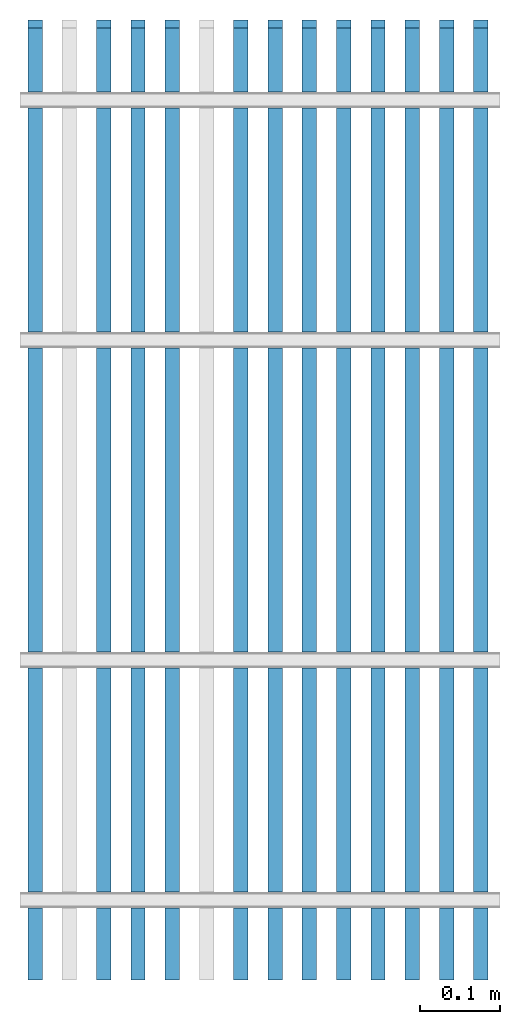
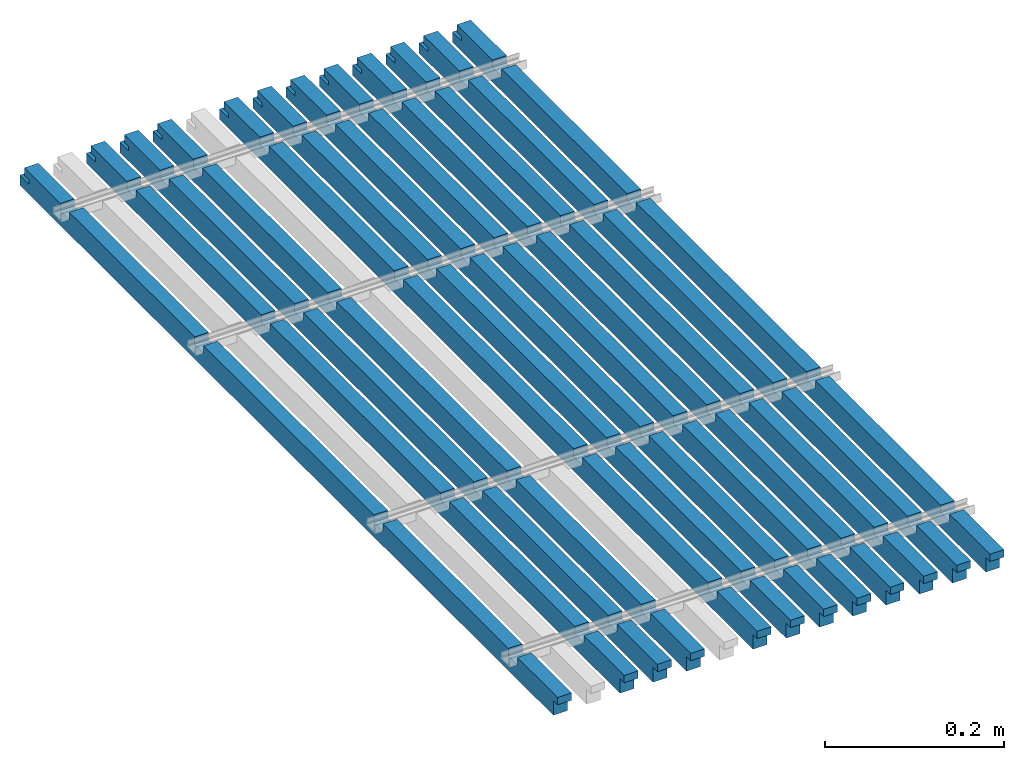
# One storey, part 2 of 3: 12 walls.
"""IFC2X3 building model written with IfcOpenShell, lengths in millimetres."""

from ifc_helpers import new_model, entity, si_unit, converted_unit, money_unit, direction, frame, origin_with_axes, place, context, subcontext, project, spatial, polyline, outline, extrude, boolean, faceted_brep, material, layer, layer_set, layer_usage, type_object, element, save


model = new_model("IFC2X3")

# Units and contexts
model_context = context("Model", 3, precision=1e-05, world=origin_with_axes(), true_north=direction((0.0, 1.0)))
body_context = subcontext(model_context, "Body", "Model", "MODEL_VIEW")
ifc_project = project(units=[si_unit("LENGTHUNIT", "METRE", prefix="MILLI"), si_unit("AREAUNIT", "SQUARE_METRE"), si_unit("VOLUMEUNIT", "CUBIC_METRE"), converted_unit("PLANEANGLEUNIT", "DEGREE", entity("IfcPlaneAngleMeasure", 0.0174532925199), si_unit("PLANEANGLEUNIT", "RADIAN"), dimensions=[0, 0, 0, 0, 0, 0, 0]), si_unit("SOLIDANGLEUNIT", "STERADIAN"), money_unit("AUD"), si_unit("TIMEUNIT", "SECOND"), si_unit("MASSUNIT", "GRAM"), si_unit("THERMODYNAMICTEMPERATUREUNIT", "DEGREE_CELSIUS"), si_unit("LUMINOUSINTENSITYUNIT", "LUMEN")], contexts=[model_context])

# Site, building, storey
site_placement = place(None, origin_with_axes())
site = spatial("IfcSite", under=ifc_project, at=site_placement, Name="Site", CompositionType="ELEMENT")
building_placement = place(site_placement, origin_with_axes())
building = spatial("IfcBuilding", under=site, at=building_placement, Name="Building", CompositionType="ELEMENT")
storey_placement = place(building_placement, origin_with_axes())
storey = spatial("IfcBuildingStorey", under=building, at=storey_placement, Name="GROUND", CompositionType="ELEMENT", Elevation=0.0)

# Walls
ifc_material = material(Name="Timber")
ifc_layer = layer(ifc_material, 18.0, ventilated="UNKNOWN")
ifc_layer_set = layer_set([ifc_layer], Name="Timber 18")
ifc_layer_usage_1 = layer_usage(ifc_layer_set, "AXIS2", "POSITIVE", 0.0)
wall_type = type_object("IfcWallType", Name="Timber 18", PredefinedType="NOTDEFINED")
wall_1_placement = place(storey_placement, frame((287.57, 0.0, 0.0), z_axis=(0.0, 0.0, 1.0), x_axis=(0.0, 1.0, 0.0)))
element("IfcWallStandardCase", 1, at=wall_1_placement, inside=storey, type_object=wall_type, material=ifc_layer_usage_1, Name="WALL-01", context=body_context, shape_type="CSG", body=[
    boolean("DIFFERENCE", boolean("DIFFERENCE", boolean("DIFFERENCE", boolean("DIFFERENCE", boolean("DIFFERENCE", boolean("DIFFERENCE", extrude(outline(polyline([(0.0, 0.0), (1200.0, 0.0), (1200.0, 18.0), (0.0, 18.0), (0.0, 0.0)])), origin_with_axes(), (0.0, 0.0, 1.0), 30.0), faceted_brep([(9.5, 0.0, 20.0), (0.0, 0.0, 20.0), (0.0, 0.0, 0.0), (9.5, 0.0, 0.0), (9.5, 18.0, 20.0), (0.0, 18.0, 20.0), (0.0, 18.0, 0.0), (9.5, 18.0, 0.0)], [[[0, 1, 2, 3]], [[1, 0, 4, 5]], [[1, 5, 6, 2]], [[7, 3, 2, 6]], [[0, 3, 7, 4]], [[4, 7, 6, 5]]])), faceted_brep([(90.0, 0.0, 20.0), (110.0, 0.0, 20.0), (110.0, 0.0, 30.0), (90.0, 0.0, 30.0), (90.0, 18.0, 20.0), (110.0, 18.0, 20.0), (110.0, 18.0, 30.0), (90.0, 18.0, 30.0)], [[[0, 1, 2, 3]], [[1, 0, 4, 5]], [[6, 2, 1, 5]], [[7, 3, 2, 6]], [[0, 3, 7, 4]], [[4, 7, 6, 5]]])), faceted_brep([(390.0, 0.0, 20.0), (410.0, 0.0, 20.0), (410.0, 0.0, 30.0), (390.0, 0.0, 30.0), (390.0, 18.0, 20.0), (410.0, 18.0, 20.0), (410.0, 18.0, 30.0), (390.0, 18.0, 30.0)], [[[0, 1, 2, 3]], [[1, 0, 4, 5]], [[6, 2, 1, 5]], [[7, 3, 2, 6]], [[0, 3, 7, 4]], [[4, 7, 6, 5]]])), faceted_brep([(790.0, 0.0, 20.0), (810.0, 0.0, 20.0), (810.0, 0.0, 30.0), (790.0, 0.0, 30.0), (790.0, 18.0, 20.0), (810.0, 18.0, 20.0), (810.0, 18.0, 30.0), (790.0, 18.0, 30.0)], [[[0, 1, 2, 3]], [[1, 0, 4, 5]], [[6, 2, 1, 5]], [[7, 3, 2, 6]], [[0, 3, 7, 4]], [[4, 7, 6, 5]]])), faceted_brep([(1090.0, 0.0, 20.0), (1110.0, 0.0, 20.0), (1110.0, 0.0, 30.0), (1090.0, 0.0, 30.0), (1090.0, 18.0, 20.0), (1110.0, 18.0, 20.0), (1110.0, 18.0, 30.0), (1090.0, 18.0, 30.0)], [[[0, 1, 2, 3]], [[1, 0, 4, 5]], [[6, 2, 1, 5]], [[7, 3, 2, 6]], [[0, 3, 7, 4]], [[4, 7, 6, 5]]])), faceted_brep([(1180.0, 0.0, 19.5), (1180.0, 0.0, 14.0), (1200.0, 0.0, 14.0), (1200.0, 0.0, 30.0), (1190.0, 0.0, 30.0), (1190.0, 0.0, 19.5), (1180.0, 18.0, 19.5), (1180.0, 18.0, 14.0), (1200.0, 18.0, 14.0), (1200.0, 18.0, 30.0), (1190.0, 18.0, 30.0), (1190.0, 18.0, 19.5)], [[[0, 1, 2, 3, 4, 5]], [[1, 0, 6, 7]], [[8, 2, 1, 7]], [[2, 8, 9, 3]], [[10, 4, 3, 9]], [[5, 4, 10, 11]], [[0, 5, 11, 6]], [[11, 10, 9, 8, 7, 6]]])),
])
ifc_layer_usage_2 = layer_usage(ifc_layer_set, "AXIS2", "POSITIVE", 0.0)
wall_2_placement = place(storey_placement, frame((330.43, 0.0, 0.0), z_axis=(0.0, 0.0, 1.0), x_axis=(0.0, 1.0, 0.0)))
element("IfcWallStandardCase", 2, at=wall_2_placement, inside=storey, type_object=wall_type, material=ifc_layer_usage_2, Name="WALL-01", context=body_context, shape_type="CSG", body=[
    boolean("DIFFERENCE", boolean("DIFFERENCE", boolean("DIFFERENCE", boolean("DIFFERENCE", boolean("DIFFERENCE", boolean("DIFFERENCE", extrude(outline(polyline([(0.0, 0.0), (1200.0, 0.0), (1200.0, 18.0), (0.0, 18.0), (0.0, 0.0)])), origin_with_axes(), (0.0, 0.0, 1.0), 30.0), faceted_brep([(9.5, 0.0, 20.0), (0.0, 0.0, 20.0), (0.0, 0.0, 0.0), (9.5, 0.0, 0.0), (9.5, 18.0, 20.0), (0.0, 18.0, 20.0), (0.0, 18.0, 0.0), (9.5, 18.0, 0.0)], [[[0, 1, 2, 3]], [[1, 0, 4, 5]], [[1, 5, 6, 2]], [[7, 3, 2, 6]], [[0, 3, 7, 4]], [[4, 7, 6, 5]]])), faceted_brep([(90.0, 0.0, 20.0), (110.0, 0.0, 20.0), (110.0, 0.0, 30.0), (90.0, 0.0, 30.0), (90.0, 18.0, 20.0), (110.0, 18.0, 20.0), (110.0, 18.0, 30.0), (90.0, 18.0, 30.0)], [[[0, 1, 2, 3]], [[1, 0, 4, 5]], [[6, 2, 1, 5]], [[7, 3, 2, 6]], [[0, 3, 7, 4]], [[4, 7, 6, 5]]])), faceted_brep([(390.0, 0.0, 20.0), (410.0, 0.0, 20.0), (410.0, 0.0, 30.0), (390.0, 0.0, 30.0), (390.0, 18.0, 20.0), (410.0, 18.0, 20.0), (410.0, 18.0, 30.0), (390.0, 18.0, 30.0)], [[[0, 1, 2, 3]], [[1, 0, 4, 5]], [[6, 2, 1, 5]], [[7, 3, 2, 6]], [[0, 3, 7, 4]], [[4, 7, 6, 5]]])), faceted_brep([(790.0, 0.0, 20.0), (810.0, 0.0, 20.0), (810.0, 0.0, 30.0), (790.0, 0.0, 30.0), (790.0, 18.0, 20.0), (810.0, 18.0, 20.0), (810.0, 18.0, 30.0), (790.0, 18.0, 30.0)], [[[0, 1, 2, 3]], [[1, 0, 4, 5]], [[6, 2, 1, 5]], [[7, 3, 2, 6]], [[0, 3, 7, 4]], [[4, 7, 6, 5]]])), faceted_brep([(1090.0, 0.0, 20.0), (1110.0, 0.0, 20.0), (1110.0, 0.0, 30.0), (1090.0, 0.0, 30.0), (1090.0, 18.0, 20.0), (1110.0, 18.0, 20.0), (1110.0, 18.0, 30.0), (1090.0, 18.0, 30.0)], [[[0, 1, 2, 3]], [[1, 0, 4, 5]], [[6, 2, 1, 5]], [[7, 3, 2, 6]], [[0, 3, 7, 4]], [[4, 7, 6, 5]]])), faceted_brep([(1180.0, 0.0, 19.5), (1180.0, 0.0, 14.0), (1200.0, 0.0, 14.0), (1200.0, 0.0, 30.0), (1190.0, 0.0, 30.0), (1190.0, 0.0, 19.5), (1180.0, 18.0, 19.5), (1180.0, 18.0, 14.0), (1200.0, 18.0, 14.0), (1200.0, 18.0, 30.0), (1190.0, 18.0, 30.0), (1190.0, 18.0, 19.5)], [[[0, 1, 2, 3, 4, 5]], [[1, 0, 6, 7]], [[8, 2, 1, 7]], [[2, 8, 9, 3]], [[10, 4, 3, 9]], [[5, 4, 10, 11]], [[0, 5, 11, 6]], [[11, 10, 9, 8, 7, 6]]])),
])
ifc_layer_usage_3 = layer_usage(ifc_layer_set, "AXIS2", "POSITIVE", 0.0)
wall_3_placement = place(storey_placement, frame((416.15, 0.0, 0.0), z_axis=(0.0, 0.0, 1.0), x_axis=(0.0, 1.0, 0.0)))
element("IfcWallStandardCase", 3, at=wall_3_placement, inside=storey, type_object=wall_type, material=ifc_layer_usage_3, Name="WALL-01", context=body_context, shape_type="CSG", body=[
    boolean("DIFFERENCE", boolean("DIFFERENCE", boolean("DIFFERENCE", boolean("DIFFERENCE", boolean("DIFFERENCE", boolean("DIFFERENCE", extrude(outline(polyline([(0.0, 0.0), (1200.0, 0.0), (1200.0, 18.0), (0.0, 18.0), (0.0, 0.0)])), origin_with_axes(), (0.0, 0.0, 1.0), 30.0), faceted_brep([(9.5, 0.0, 20.0), (0.0, 0.0, 20.0), (0.0, 0.0, 0.0), (9.5, 0.0, 0.0), (9.5, 18.0, 20.0), (0.0, 18.0, 20.0), (0.0, 18.0, 0.0), (9.5, 18.0, 0.0)], [[[0, 1, 2, 3]], [[1, 0, 4, 5]], [[1, 5, 6, 2]], [[7, 3, 2, 6]], [[0, 3, 7, 4]], [[4, 7, 6, 5]]])), faceted_brep([(90.0, 0.0, 20.0), (110.0, 0.0, 20.0), (110.0, 0.0, 30.0), (90.0, 0.0, 30.0), (90.0, 18.0, 20.0), (110.0, 18.0, 20.0), (110.0, 18.0, 30.0), (90.0, 18.0, 30.0)], [[[0, 1, 2, 3]], [[1, 0, 4, 5]], [[6, 2, 1, 5]], [[7, 3, 2, 6]], [[0, 3, 7, 4]], [[4, 7, 6, 5]]])), faceted_brep([(390.0, 0.0, 20.0), (410.0, 0.0, 20.0), (410.0, 0.0, 30.0), (390.0, 0.0, 30.0), (390.0, 18.0, 20.0), (410.0, 18.0, 20.0), (410.0, 18.0, 30.0), (390.0, 18.0, 30.0)], [[[0, 1, 2, 3]], [[1, 0, 4, 5]], [[6, 2, 1, 5]], [[7, 3, 2, 6]], [[0, 3, 7, 4]], [[4, 7, 6, 5]]])), faceted_brep([(790.0, 0.0, 20.0), (810.0, 0.0, 20.0), (810.0, 0.0, 30.0), (790.0, 0.0, 30.0), (790.0, 18.0, 20.0), (810.0, 18.0, 20.0), (810.0, 18.0, 30.0), (790.0, 18.0, 30.0)], [[[0, 1, 2, 3]], [[1, 0, 4, 5]], [[6, 2, 1, 5]], [[7, 3, 2, 6]], [[0, 3, 7, 4]], [[4, 7, 6, 5]]])), faceted_brep([(1090.0, 0.0, 20.0), (1110.0, 0.0, 20.0), (1110.0, 0.0, 30.0), (1090.0, 0.0, 30.0), (1090.0, 18.0, 20.0), (1110.0, 18.0, 20.0), (1110.0, 18.0, 30.0), (1090.0, 18.0, 30.0)], [[[0, 1, 2, 3]], [[1, 0, 4, 5]], [[6, 2, 1, 5]], [[7, 3, 2, 6]], [[0, 3, 7, 4]], [[4, 7, 6, 5]]])), faceted_brep([(1180.0, 0.0, 19.5), (1180.0, 0.0, 14.0), (1200.0, 0.0, 14.0), (1200.0, 0.0, 30.0), (1190.0, 0.0, 30.0), (1190.0, 0.0, 19.5), (1180.0, 18.0, 19.5), (1180.0, 18.0, 14.0), (1200.0, 18.0, 14.0), (1200.0, 18.0, 30.0), (1190.0, 18.0, 30.0), (1190.0, 18.0, 19.5)], [[[0, 1, 2, 3, 4, 5]], [[1, 0, 6, 7]], [[8, 2, 1, 7]], [[2, 8, 9, 3]], [[10, 4, 3, 9]], [[5, 4, 10, 11]], [[0, 5, 11, 6]], [[11, 10, 9, 8, 7, 6]]])),
])
ifc_layer_usage_4 = layer_usage(ifc_layer_set, "AXIS2", "POSITIVE", 0.0)
wall_4_placement = place(storey_placement, frame((158.99, 0.0, 0.0), z_axis=(0.0, 0.0, 1.0), x_axis=(0.0, 1.0, 0.0)))
element("IfcWallStandardCase", 4, at=wall_4_placement, inside=storey, type_object=wall_type, material=ifc_layer_usage_4, Name="WALL-01", context=body_context, shape_type="CSG", body=[
    boolean("DIFFERENCE", boolean("DIFFERENCE", boolean("DIFFERENCE", boolean("DIFFERENCE", boolean("DIFFERENCE", boolean("DIFFERENCE", extrude(outline(polyline([(0.0, 0.0), (1200.0, 0.0), (1200.0, 18.0), (0.0, 18.0), (0.0, 0.0)])), origin_with_axes(), (0.0, 0.0, 1.0), 30.0), faceted_brep([(9.5, 0.0, 20.0), (0.0, 0.0, 20.0), (0.0, 0.0, 0.0), (9.5, 0.0, 0.0), (9.5, 18.0, 20.0), (0.0, 18.0, 20.0), (0.0, 18.0, 0.0), (9.5, 18.0, 0.0)], [[[0, 1, 2, 3]], [[1, 0, 4, 5]], [[1, 5, 6, 2]], [[7, 3, 2, 6]], [[0, 3, 7, 4]], [[4, 7, 6, 5]]])), faceted_brep([(90.0, 0.0, 20.0), (110.0, 0.0, 20.0), (110.0, 0.0, 30.0), (90.0, 0.0, 30.0), (90.0, 18.0, 20.0), (110.0, 18.0, 20.0), (110.0, 18.0, 30.0), (90.0, 18.0, 30.0)], [[[0, 1, 2, 3]], [[1, 0, 4, 5]], [[6, 2, 1, 5]], [[7, 3, 2, 6]], [[0, 3, 7, 4]], [[4, 7, 6, 5]]])), faceted_brep([(390.0, 0.0, 20.0), (410.0, 0.0, 20.0), (410.0, 0.0, 30.0), (390.0, 0.0, 30.0), (390.0, 18.0, 20.0), (410.0, 18.0, 20.0), (410.0, 18.0, 30.0), (390.0, 18.0, 30.0)], [[[0, 1, 2, 3]], [[1, 0, 4, 5]], [[6, 2, 1, 5]], [[7, 3, 2, 6]], [[0, 3, 7, 4]], [[4, 7, 6, 5]]])), faceted_brep([(790.0, 0.0, 20.0), (810.0, 0.0, 20.0), (810.0, 0.0, 30.0), (790.0, 0.0, 30.0), (790.0, 18.0, 20.0), (810.0, 18.0, 20.0), (810.0, 18.0, 30.0), (790.0, 18.0, 30.0)], [[[0, 1, 2, 3]], [[1, 0, 4, 5]], [[6, 2, 1, 5]], [[7, 3, 2, 6]], [[0, 3, 7, 4]], [[4, 7, 6, 5]]])), faceted_brep([(1090.0, 0.0, 20.0), (1110.0, 0.0, 20.0), (1110.0, 0.0, 30.0), (1090.0, 0.0, 30.0), (1090.0, 18.0, 20.0), (1110.0, 18.0, 20.0), (1110.0, 18.0, 30.0), (1090.0, 18.0, 30.0)], [[[0, 1, 2, 3]], [[1, 0, 4, 5]], [[6, 2, 1, 5]], [[7, 3, 2, 6]], [[0, 3, 7, 4]], [[4, 7, 6, 5]]])), faceted_brep([(1180.0, 0.0, 19.5), (1180.0, 0.0, 14.0), (1200.0, 0.0, 14.0), (1200.0, 0.0, 30.0), (1190.0, 0.0, 30.0), (1190.0, 0.0, 19.5), (1180.0, 18.0, 19.5), (1180.0, 18.0, 14.0), (1200.0, 18.0, 14.0), (1200.0, 18.0, 30.0), (1190.0, 18.0, 30.0), (1190.0, 18.0, 19.5)], [[[0, 1, 2, 3, 4, 5]], [[1, 0, 6, 7]], [[8, 2, 1, 7]], [[2, 8, 9, 3]], [[10, 4, 3, 9]], [[5, 4, 10, 11]], [[0, 5, 11, 6]], [[11, 10, 9, 8, 7, 6]]])),
])
ifc_layer_usage_5 = layer_usage(ifc_layer_set, "AXIS2", "POSITIVE", 0.0)
wall_5_placement = place(storey_placement, frame((373.29, 0.0, 0.0), z_axis=(0.0, 0.0, 1.0), x_axis=(0.0, 1.0, 0.0)))
element("IfcWallStandardCase", 5, at=wall_5_placement, inside=storey, type_object=wall_type, material=ifc_layer_usage_5, Name="WALL-01", context=body_context, shape_type="CSG", body=[
    boolean("DIFFERENCE", boolean("DIFFERENCE", boolean("DIFFERENCE", boolean("DIFFERENCE", boolean("DIFFERENCE", boolean("DIFFERENCE", extrude(outline(polyline([(0.0, 0.0), (1200.0, 0.0), (1200.0, 18.0), (0.0, 18.0), (0.0, 0.0)])), origin_with_axes(), (0.0, 0.0, 1.0), 30.0), faceted_brep([(9.5, 0.0, 20.0), (0.0, 0.0, 20.0), (0.0, 0.0, 0.0), (9.5, 0.0, 0.0), (9.5, 18.0, 20.0), (0.0, 18.0, 20.0), (0.0, 18.0, 0.0), (9.5, 18.0, 0.0)], [[[0, 1, 2, 3]], [[1, 0, 4, 5]], [[1, 5, 6, 2]], [[7, 3, 2, 6]], [[0, 3, 7, 4]], [[4, 7, 6, 5]]])), faceted_brep([(90.0, 0.0, 20.0), (110.0, 0.0, 20.0), (110.0, 0.0, 30.0), (90.0, 0.0, 30.0), (90.0, 18.0, 20.0), (110.0, 18.0, 20.0), (110.0, 18.0, 30.0), (90.0, 18.0, 30.0)], [[[0, 1, 2, 3]], [[1, 0, 4, 5]], [[6, 2, 1, 5]], [[7, 3, 2, 6]], [[0, 3, 7, 4]], [[4, 7, 6, 5]]])), faceted_brep([(390.0, 0.0, 20.0), (410.0, 0.0, 20.0), (410.0, 0.0, 30.0), (390.0, 0.0, 30.0), (390.0, 18.0, 20.0), (410.0, 18.0, 20.0), (410.0, 18.0, 30.0), (390.0, 18.0, 30.0)], [[[0, 1, 2, 3]], [[1, 0, 4, 5]], [[6, 2, 1, 5]], [[7, 3, 2, 6]], [[0, 3, 7, 4]], [[4, 7, 6, 5]]])), faceted_brep([(790.0, 0.0, 20.0), (810.0, 0.0, 20.0), (810.0, 0.0, 30.0), (790.0, 0.0, 30.0), (790.0, 18.0, 20.0), (810.0, 18.0, 20.0), (810.0, 18.0, 30.0), (790.0, 18.0, 30.0)], [[[0, 1, 2, 3]], [[1, 0, 4, 5]], [[6, 2, 1, 5]], [[7, 3, 2, 6]], [[0, 3, 7, 4]], [[4, 7, 6, 5]]])), faceted_brep([(1090.0, 0.0, 20.0), (1110.0, 0.0, 20.0), (1110.0, 0.0, 30.0), (1090.0, 0.0, 30.0), (1090.0, 18.0, 20.0), (1110.0, 18.0, 20.0), (1110.0, 18.0, 30.0), (1090.0, 18.0, 30.0)], [[[0, 1, 2, 3]], [[1, 0, 4, 5]], [[6, 2, 1, 5]], [[7, 3, 2, 6]], [[0, 3, 7, 4]], [[4, 7, 6, 5]]])), faceted_brep([(1180.0, 0.0, 19.5), (1180.0, 0.0, 14.0), (1200.0, 0.0, 14.0), (1200.0, 0.0, 30.0), (1190.0, 0.0, 30.0), (1190.0, 0.0, 19.5), (1180.0, 18.0, 19.5), (1180.0, 18.0, 14.0), (1200.0, 18.0, 14.0), (1200.0, 18.0, 30.0), (1190.0, 18.0, 30.0), (1190.0, 18.0, 19.5)], [[[0, 1, 2, 3, 4, 5]], [[1, 0, 6, 7]], [[8, 2, 1, 7]], [[2, 8, 9, 3]], [[10, 4, 3, 9]], [[5, 4, 10, 11]], [[0, 5, 11, 6]], [[11, 10, 9, 8, 7, 6]]])),
])
ifc_layer_usage_6 = layer_usage(ifc_layer_set, "AXIS2", "POSITIVE", 0.0)
wall_6_placement = place(storey_placement, frame((587.59, 0.0, 0.0), z_axis=(0.0, 0.0, 1.0), x_axis=(0.0, 1.0, 0.0)))
element("IfcWallStandardCase", 6, at=wall_6_placement, inside=storey, type_object=wall_type, material=ifc_layer_usage_6, Name="WALL-01", context=body_context, shape_type="CSG", body=[
    boolean("DIFFERENCE", boolean("DIFFERENCE", boolean("DIFFERENCE", boolean("DIFFERENCE", boolean("DIFFERENCE", boolean("DIFFERENCE", extrude(outline(polyline([(0.0, 0.0), (1200.0, 0.0), (1200.0, 18.0), (0.0, 18.0), (0.0, 0.0)])), origin_with_axes(), (0.0, 0.0, 1.0), 30.0), faceted_brep([(9.5, 0.0, 20.0), (0.0, 0.0, 20.0), (0.0, 0.0, 0.0), (9.5, 0.0, 0.0), (9.5, 18.0, 20.0), (0.0, 18.0, 20.0), (0.0, 18.0, 0.0), (9.5, 18.0, 0.0)], [[[0, 1, 2, 3]], [[1, 0, 4, 5]], [[1, 5, 6, 2]], [[7, 3, 2, 6]], [[0, 3, 7, 4]], [[4, 7, 6, 5]]])), faceted_brep([(90.0, 0.0, 20.0), (110.0, 0.0, 20.0), (110.0, 0.0, 30.0), (90.0, 0.0, 30.0), (90.0, 18.0, 20.0), (110.0, 18.0, 20.0), (110.0, 18.0, 30.0), (90.0, 18.0, 30.0)], [[[0, 1, 2, 3]], [[1, 0, 4, 5]], [[6, 2, 1, 5]], [[7, 3, 2, 6]], [[0, 3, 7, 4]], [[4, 7, 6, 5]]])), faceted_brep([(390.0, 0.0, 20.0), (410.0, 0.0, 20.0), (410.0, 0.0, 30.0), (390.0, 0.0, 30.0), (390.0, 18.0, 20.0), (410.0, 18.0, 20.0), (410.0, 18.0, 30.0), (390.0, 18.0, 30.0)], [[[0, 1, 2, 3]], [[1, 0, 4, 5]], [[6, 2, 1, 5]], [[7, 3, 2, 6]], [[0, 3, 7, 4]], [[4, 7, 6, 5]]])), faceted_brep([(790.0, 0.0, 20.0), (810.0, 0.0, 20.0), (810.0, 0.0, 30.0), (790.0, 0.0, 30.0), (790.0, 18.0, 20.0), (810.0, 18.0, 20.0), (810.0, 18.0, 30.0), (790.0, 18.0, 30.0)], [[[0, 1, 2, 3]], [[1, 0, 4, 5]], [[6, 2, 1, 5]], [[7, 3, 2, 6]], [[0, 3, 7, 4]], [[4, 7, 6, 5]]])), faceted_brep([(1090.0, 0.0, 20.0), (1110.0, 0.0, 20.0), (1110.0, 0.0, 30.0), (1090.0, 0.0, 30.0), (1090.0, 18.0, 20.0), (1110.0, 18.0, 20.0), (1110.0, 18.0, 30.0), (1090.0, 18.0, 30.0)], [[[0, 1, 2, 3]], [[1, 0, 4, 5]], [[6, 2, 1, 5]], [[7, 3, 2, 6]], [[0, 3, 7, 4]], [[4, 7, 6, 5]]])), faceted_brep([(1180.0, 0.0, 19.5), (1180.0, 0.0, 14.0), (1200.0, 0.0, 14.0), (1200.0, 0.0, 30.0), (1190.0, 0.0, 30.0), (1190.0, 0.0, 19.5), (1180.0, 18.0, 19.5), (1180.0, 18.0, 14.0), (1200.0, 18.0, 14.0), (1200.0, 18.0, 30.0), (1190.0, 18.0, 30.0), (1190.0, 18.0, 19.5)], [[[0, 1, 2, 3, 4, 5]], [[1, 0, 6, 7]], [[8, 2, 1, 7]], [[2, 8, 9, 3]], [[10, 4, 3, 9]], [[5, 4, 10, 11]], [[0, 5, 11, 6]], [[11, 10, 9, 8, 7, 6]]])),
])
ifc_layer_usage_7 = layer_usage(ifc_layer_set, "AXIS2", "POSITIVE", 0.0)
wall_7_placement = place(storey_placement, frame((544.73, 0.0, 0.0), z_axis=(0.0, 0.0, 1.0), x_axis=(0.0, 1.0, 0.0)))
element("IfcWallStandardCase", 7, at=wall_7_placement, inside=storey, type_object=wall_type, material=ifc_layer_usage_7, Name="WALL-01", context=body_context, shape_type="CSG", body=[
    boolean("DIFFERENCE", boolean("DIFFERENCE", boolean("DIFFERENCE", boolean("DIFFERENCE", boolean("DIFFERENCE", boolean("DIFFERENCE", extrude(outline(polyline([(0.0, 0.0), (1200.0, 0.0), (1200.0, 18.0), (0.0, 18.0), (0.0, 0.0)])), origin_with_axes(), (0.0, 0.0, 1.0), 30.0), faceted_brep([(9.5, 0.0, 20.0), (0.0, 0.0, 20.0), (0.0, 0.0, 0.0), (9.5, 0.0, 0.0), (9.5, 18.0, 20.0), (0.0, 18.0, 20.0), (0.0, 18.0, 0.0), (9.5, 18.0, 0.0)], [[[0, 1, 2, 3]], [[1, 0, 4, 5]], [[1, 5, 6, 2]], [[7, 3, 2, 6]], [[0, 3, 7, 4]], [[4, 7, 6, 5]]])), faceted_brep([(90.0, 0.0, 20.0), (110.0, 0.0, 20.0), (110.0, 0.0, 30.0), (90.0, 0.0, 30.0), (90.0, 18.0, 20.0), (110.0, 18.0, 20.0), (110.0, 18.0, 30.0), (90.0, 18.0, 30.0)], [[[0, 1, 2, 3]], [[1, 0, 4, 5]], [[6, 2, 1, 5]], [[7, 3, 2, 6]], [[0, 3, 7, 4]], [[4, 7, 6, 5]]])), faceted_brep([(390.0, 0.0, 20.0), (410.0, 0.0, 20.0), (410.0, 0.0, 30.0), (390.0, 0.0, 30.0), (390.0, 18.0, 20.0), (410.0, 18.0, 20.0), (410.0, 18.0, 30.0), (390.0, 18.0, 30.0)], [[[0, 1, 2, 3]], [[1, 0, 4, 5]], [[6, 2, 1, 5]], [[7, 3, 2, 6]], [[0, 3, 7, 4]], [[4, 7, 6, 5]]])), faceted_brep([(790.0, 0.0, 20.0), (810.0, 0.0, 20.0), (810.0, 0.0, 30.0), (790.0, 0.0, 30.0), (790.0, 18.0, 20.0), (810.0, 18.0, 20.0), (810.0, 18.0, 30.0), (790.0, 18.0, 30.0)], [[[0, 1, 2, 3]], [[1, 0, 4, 5]], [[6, 2, 1, 5]], [[7, 3, 2, 6]], [[0, 3, 7, 4]], [[4, 7, 6, 5]]])), faceted_brep([(1090.0, 0.0, 20.0), (1110.0, 0.0, 20.0), (1110.0, 0.0, 30.0), (1090.0, 0.0, 30.0), (1090.0, 18.0, 20.0), (1110.0, 18.0, 20.0), (1110.0, 18.0, 30.0), (1090.0, 18.0, 30.0)], [[[0, 1, 2, 3]], [[1, 0, 4, 5]], [[6, 2, 1, 5]], [[7, 3, 2, 6]], [[0, 3, 7, 4]], [[4, 7, 6, 5]]])), faceted_brep([(1180.0, 0.0, 19.5), (1180.0, 0.0, 14.0), (1200.0, 0.0, 14.0), (1200.0, 0.0, 30.0), (1190.0, 0.0, 30.0), (1190.0, 0.0, 19.5), (1180.0, 18.0, 19.5), (1180.0, 18.0, 14.0), (1200.0, 18.0, 14.0), (1200.0, 18.0, 30.0), (1190.0, 18.0, 30.0), (1190.0, 18.0, 19.5)], [[[0, 1, 2, 3, 4, 5]], [[1, 0, 6, 7]], [[8, 2, 1, 7]], [[2, 8, 9, 3]], [[10, 4, 3, 9]], [[5, 4, 10, 11]], [[0, 5, 11, 6]], [[11, 10, 9, 8, 7, 6]]])),
])
ifc_layer_usage_8 = layer_usage(ifc_layer_set, "AXIS2", "POSITIVE", 0.0)
wall_8_placement = place(storey_placement, frame((501.87, 0.0, 0.0), z_axis=(0.0, 0.0, 1.0), x_axis=(0.0, 1.0, 0.0)))
element("IfcWallStandardCase", 8, at=wall_8_placement, inside=storey, type_object=wall_type, material=ifc_layer_usage_8, Name="WALL-01", context=body_context, shape_type="CSG", body=[
    boolean("DIFFERENCE", boolean("DIFFERENCE", boolean("DIFFERENCE", boolean("DIFFERENCE", boolean("DIFFERENCE", boolean("DIFFERENCE", extrude(outline(polyline([(0.0, 0.0), (1200.0, 0.0), (1200.0, 18.0), (0.0, 18.0), (0.0, 0.0)])), origin_with_axes(), (0.0, 0.0, 1.0), 30.0), faceted_brep([(9.5, 0.0, 20.0), (0.0, 0.0, 20.0), (0.0, 0.0, 0.0), (9.5, 0.0, 0.0), (9.5, 18.0, 20.0), (0.0, 18.0, 20.0), (0.0, 18.0, 0.0), (9.5, 18.0, 0.0)], [[[0, 1, 2, 3]], [[1, 0, 4, 5]], [[1, 5, 6, 2]], [[7, 3, 2, 6]], [[0, 3, 7, 4]], [[4, 7, 6, 5]]])), faceted_brep([(90.0, 0.0, 20.0), (110.0, 0.0, 20.0), (110.0, 0.0, 30.0), (90.0, 0.0, 30.0), (90.0, 18.0, 20.0), (110.0, 18.0, 20.0), (110.0, 18.0, 30.0), (90.0, 18.0, 30.0)], [[[0, 1, 2, 3]], [[1, 0, 4, 5]], [[6, 2, 1, 5]], [[7, 3, 2, 6]], [[0, 3, 7, 4]], [[4, 7, 6, 5]]])), faceted_brep([(390.0, 0.0, 20.0), (410.0, 0.0, 20.0), (410.0, 0.0, 30.0), (390.0, 0.0, 30.0), (390.0, 18.0, 20.0), (410.0, 18.0, 20.0), (410.0, 18.0, 30.0), (390.0, 18.0, 30.0)], [[[0, 1, 2, 3]], [[1, 0, 4, 5]], [[6, 2, 1, 5]], [[7, 3, 2, 6]], [[0, 3, 7, 4]], [[4, 7, 6, 5]]])), faceted_brep([(790.0, 0.0, 20.0), (810.0, 0.0, 20.0), (810.0, 0.0, 30.0), (790.0, 0.0, 30.0), (790.0, 18.0, 20.0), (810.0, 18.0, 20.0), (810.0, 18.0, 30.0), (790.0, 18.0, 30.0)], [[[0, 1, 2, 3]], [[1, 0, 4, 5]], [[6, 2, 1, 5]], [[7, 3, 2, 6]], [[0, 3, 7, 4]], [[4, 7, 6, 5]]])), faceted_brep([(1090.0, 0.0, 20.0), (1110.0, 0.0, 20.0), (1110.0, 0.0, 30.0), (1090.0, 0.0, 30.0), (1090.0, 18.0, 20.0), (1110.0, 18.0, 20.0), (1110.0, 18.0, 30.0), (1090.0, 18.0, 30.0)], [[[0, 1, 2, 3]], [[1, 0, 4, 5]], [[6, 2, 1, 5]], [[7, 3, 2, 6]], [[0, 3, 7, 4]], [[4, 7, 6, 5]]])), faceted_brep([(1180.0, 0.0, 19.5), (1180.0, 0.0, 14.0), (1200.0, 0.0, 14.0), (1200.0, 0.0, 30.0), (1190.0, 0.0, 30.0), (1190.0, 0.0, 19.5), (1180.0, 18.0, 19.5), (1180.0, 18.0, 14.0), (1200.0, 18.0, 14.0), (1200.0, 18.0, 30.0), (1190.0, 18.0, 30.0), (1190.0, 18.0, 19.5)], [[[0, 1, 2, 3, 4, 5]], [[1, 0, 6, 7]], [[8, 2, 1, 7]], [[2, 8, 9, 3]], [[10, 4, 3, 9]], [[5, 4, 10, 11]], [[0, 5, 11, 6]], [[11, 10, 9, 8, 7, 6]]])),
])
ifc_layer_usage_9 = layer_usage(ifc_layer_set, "AXIS2", "POSITIVE", 0.0)
wall_9_placement = place(storey_placement, frame((459.01, 0.0, 0.0), z_axis=(0.0, 0.0, 1.0), x_axis=(0.0, 1.0, 0.0)))
element("IfcWallStandardCase", 9, at=wall_9_placement, inside=storey, type_object=wall_type, material=ifc_layer_usage_9, Name="WALL-01", context=body_context, shape_type="CSG", body=[
    boolean("DIFFERENCE", boolean("DIFFERENCE", boolean("DIFFERENCE", boolean("DIFFERENCE", boolean("DIFFERENCE", boolean("DIFFERENCE", extrude(outline(polyline([(0.0, 0.0), (1200.0, 0.0), (1200.0, 18.0), (0.0, 18.0), (0.0, 0.0)])), origin_with_axes(), (0.0, 0.0, 1.0), 30.0), faceted_brep([(9.5, 0.0, 20.0), (0.0, 0.0, 20.0), (0.0, 0.0, 0.0), (9.5, 0.0, 0.0), (9.5, 18.0, 20.0), (0.0, 18.0, 20.0), (0.0, 18.0, 0.0), (9.5, 18.0, 0.0)], [[[0, 1, 2, 3]], [[1, 0, 4, 5]], [[1, 5, 6, 2]], [[7, 3, 2, 6]], [[0, 3, 7, 4]], [[4, 7, 6, 5]]])), faceted_brep([(90.0, 0.0, 20.0), (110.0, 0.0, 20.0), (110.0, 0.0, 30.0), (90.0, 0.0, 30.0), (90.0, 18.0, 20.0), (110.0, 18.0, 20.0), (110.0, 18.0, 30.0), (90.0, 18.0, 30.0)], [[[0, 1, 2, 3]], [[1, 0, 4, 5]], [[6, 2, 1, 5]], [[7, 3, 2, 6]], [[0, 3, 7, 4]], [[4, 7, 6, 5]]])), faceted_brep([(390.0, 0.0, 20.0), (410.0, 0.0, 20.0), (410.0, 0.0, 30.0), (390.0, 0.0, 30.0), (390.0, 18.0, 20.0), (410.0, 18.0, 20.0), (410.0, 18.0, 30.0), (390.0, 18.0, 30.0)], [[[0, 1, 2, 3]], [[1, 0, 4, 5]], [[6, 2, 1, 5]], [[7, 3, 2, 6]], [[0, 3, 7, 4]], [[4, 7, 6, 5]]])), faceted_brep([(790.0, 0.0, 20.0), (810.0, 0.0, 20.0), (810.0, 0.0, 30.0), (790.0, 0.0, 30.0), (790.0, 18.0, 20.0), (810.0, 18.0, 20.0), (810.0, 18.0, 30.0), (790.0, 18.0, 30.0)], [[[0, 1, 2, 3]], [[1, 0, 4, 5]], [[6, 2, 1, 5]], [[7, 3, 2, 6]], [[0, 3, 7, 4]], [[4, 7, 6, 5]]])), faceted_brep([(1090.0, 0.0, 20.0), (1110.0, 0.0, 20.0), (1110.0, 0.0, 30.0), (1090.0, 0.0, 30.0), (1090.0, 18.0, 20.0), (1110.0, 18.0, 20.0), (1110.0, 18.0, 30.0), (1090.0, 18.0, 30.0)], [[[0, 1, 2, 3]], [[1, 0, 4, 5]], [[6, 2, 1, 5]], [[7, 3, 2, 6]], [[0, 3, 7, 4]], [[4, 7, 6, 5]]])), faceted_brep([(1180.0, 0.0, 19.5), (1180.0, 0.0, 14.0), (1200.0, 0.0, 14.0), (1200.0, 0.0, 30.0), (1190.0, 0.0, 30.0), (1190.0, 0.0, 19.5), (1180.0, 18.0, 19.5), (1180.0, 18.0, 14.0), (1200.0, 18.0, 14.0), (1200.0, 18.0, 30.0), (1190.0, 18.0, 30.0), (1190.0, 18.0, 19.5)], [[[0, 1, 2, 3, 4, 5]], [[1, 0, 6, 7]], [[8, 2, 1, 7]], [[2, 8, 9, 3]], [[10, 4, 3, 9]], [[5, 4, 10, 11]], [[0, 5, 11, 6]], [[11, 10, 9, 8, 7, 6]]])),
])
ifc_layer_usage_10 = layer_usage(ifc_layer_set, "AXIS2", "POSITIVE", 0.0)
wall_10_placement = place(storey_placement, frame((116.13, 0.0, 0.0), z_axis=(0.0, 0.0, 1.0), x_axis=(0.0, 1.0, 0.0)))
element("IfcWallStandardCase", 10, at=wall_10_placement, inside=storey, type_object=wall_type, material=ifc_layer_usage_10, Name="WALL-01", context=body_context, shape_type="CSG", body=[
    boolean("DIFFERENCE", boolean("DIFFERENCE", boolean("DIFFERENCE", boolean("DIFFERENCE", boolean("DIFFERENCE", boolean("DIFFERENCE", extrude(outline(polyline([(0.0, 0.0), (1200.0, 0.0), (1200.0, 18.0), (0.0, 18.0), (0.0, 0.0)])), origin_with_axes(), (0.0, 0.0, 1.0), 30.0), faceted_brep([(9.5, 0.0, 20.0), (0.0, 0.0, 20.0), (0.0, 0.0, 0.0), (9.5, 0.0, 0.0), (9.5, 18.0, 20.0), (0.0, 18.0, 20.0), (0.0, 18.0, 0.0), (9.5, 18.0, 0.0)], [[[0, 1, 2, 3]], [[1, 0, 4, 5]], [[1, 5, 6, 2]], [[7, 3, 2, 6]], [[0, 3, 7, 4]], [[4, 7, 6, 5]]])), faceted_brep([(90.0, 0.0, 20.0), (110.0, 0.0, 20.0), (110.0, 0.0, 30.0), (90.0, 0.0, 30.0), (90.0, 18.0, 20.0), (110.0, 18.0, 20.0), (110.0, 18.0, 30.0), (90.0, 18.0, 30.0)], [[[0, 1, 2, 3]], [[1, 0, 4, 5]], [[6, 2, 1, 5]], [[7, 3, 2, 6]], [[0, 3, 7, 4]], [[4, 7, 6, 5]]])), faceted_brep([(390.0, 0.0, 20.0), (410.0, 0.0, 20.0), (410.0, 0.0, 30.0), (390.0, 0.0, 30.0), (390.0, 18.0, 20.0), (410.0, 18.0, 20.0), (410.0, 18.0, 30.0), (390.0, 18.0, 30.0)], [[[0, 1, 2, 3]], [[1, 0, 4, 5]], [[6, 2, 1, 5]], [[7, 3, 2, 6]], [[0, 3, 7, 4]], [[4, 7, 6, 5]]])), faceted_brep([(790.0, 0.0, 20.0), (810.0, 0.0, 20.0), (810.0, 0.0, 30.0), (790.0, 0.0, 30.0), (790.0, 18.0, 20.0), (810.0, 18.0, 20.0), (810.0, 18.0, 30.0), (790.0, 18.0, 30.0)], [[[0, 1, 2, 3]], [[1, 0, 4, 5]], [[6, 2, 1, 5]], [[7, 3, 2, 6]], [[0, 3, 7, 4]], [[4, 7, 6, 5]]])), faceted_brep([(1090.0, 0.0, 20.0), (1110.0, 0.0, 20.0), (1110.0, 0.0, 30.0), (1090.0, 0.0, 30.0), (1090.0, 18.0, 20.0), (1110.0, 18.0, 20.0), (1110.0, 18.0, 30.0), (1090.0, 18.0, 30.0)], [[[0, 1, 2, 3]], [[1, 0, 4, 5]], [[6, 2, 1, 5]], [[7, 3, 2, 6]], [[0, 3, 7, 4]], [[4, 7, 6, 5]]])), faceted_brep([(1180.0, 0.0, 19.5), (1180.0, 0.0, 14.0), (1200.0, 0.0, 14.0), (1200.0, 0.0, 30.0), (1190.0, 0.0, 30.0), (1190.0, 0.0, 19.5), (1180.0, 18.0, 19.5), (1180.0, 18.0, 14.0), (1200.0, 18.0, 14.0), (1200.0, 18.0, 30.0), (1190.0, 18.0, 30.0), (1190.0, 18.0, 19.5)], [[[0, 1, 2, 3, 4, 5]], [[1, 0, 6, 7]], [[8, 2, 1, 7]], [[2, 8, 9, 3]], [[10, 4, 3, 9]], [[5, 4, 10, 11]], [[0, 5, 11, 6]], [[11, 10, 9, 8, 7, 6]]])),
])
ifc_layer_usage_11 = layer_usage(ifc_layer_set, "AXIS2", "POSITIVE", 0.0)
wall_11_placement = place(storey_placement, frame((30.41, 0.0, 0.0), z_axis=(0.0, 0.0, 1.0), x_axis=(0.0, 1.0, 0.0)))
element("IfcWallStandardCase", 11, at=wall_11_placement, inside=storey, type_object=wall_type, material=ifc_layer_usage_11, Name="WALL-01", context=body_context, shape_type="CSG", body=[
    boolean("DIFFERENCE", boolean("DIFFERENCE", boolean("DIFFERENCE", boolean("DIFFERENCE", boolean("DIFFERENCE", boolean("DIFFERENCE", extrude(outline(polyline([(0.0, 0.0), (1200.0, 0.0), (1200.0, 18.0), (0.0, 18.0), (0.0, 0.0)])), origin_with_axes(), (0.0, 0.0, 1.0), 30.0), faceted_brep([(9.5, 0.0, 20.0), (0.0, 0.0, 20.0), (0.0, 0.0, 0.0), (9.5, 0.0, 0.0), (9.5, 18.0, 20.0), (0.0, 18.0, 20.0), (0.0, 18.0, 0.0), (9.5, 18.0, 0.0)], [[[0, 1, 2, 3]], [[1, 0, 4, 5]], [[1, 5, 6, 2]], [[7, 3, 2, 6]], [[0, 3, 7, 4]], [[4, 7, 6, 5]]])), faceted_brep([(90.0, 0.0, 20.0), (110.0, 0.0, 20.0), (110.0, 0.0, 30.0), (90.0, 0.0, 30.0), (90.0, 18.0, 20.0), (110.0, 18.0, 20.0), (110.0, 18.0, 30.0), (90.0, 18.0, 30.0)], [[[0, 1, 2, 3]], [[1, 0, 4, 5]], [[6, 2, 1, 5]], [[7, 3, 2, 6]], [[0, 3, 7, 4]], [[4, 7, 6, 5]]])), faceted_brep([(390.0, 0.0, 20.0), (410.0, 0.0, 20.0), (410.0, 0.0, 30.0), (390.0, 0.0, 30.0), (390.0, 18.0, 20.0), (410.0, 18.0, 20.0), (410.0, 18.0, 30.0), (390.0, 18.0, 30.0)], [[[0, 1, 2, 3]], [[1, 0, 4, 5]], [[6, 2, 1, 5]], [[7, 3, 2, 6]], [[0, 3, 7, 4]], [[4, 7, 6, 5]]])), faceted_brep([(790.0, 0.0, 20.0), (810.0, 0.0, 20.0), (810.0, 0.0, 30.0), (790.0, 0.0, 30.0), (790.0, 18.0, 20.0), (810.0, 18.0, 20.0), (810.0, 18.0, 30.0), (790.0, 18.0, 30.0)], [[[0, 1, 2, 3]], [[1, 0, 4, 5]], [[6, 2, 1, 5]], [[7, 3, 2, 6]], [[0, 3, 7, 4]], [[4, 7, 6, 5]]])), faceted_brep([(1090.0, 0.0, 20.0), (1110.0, 0.0, 20.0), (1110.0, 0.0, 30.0), (1090.0, 0.0, 30.0), (1090.0, 18.0, 20.0), (1110.0, 18.0, 20.0), (1110.0, 18.0, 30.0), (1090.0, 18.0, 30.0)], [[[0, 1, 2, 3]], [[1, 0, 4, 5]], [[6, 2, 1, 5]], [[7, 3, 2, 6]], [[0, 3, 7, 4]], [[4, 7, 6, 5]]])), faceted_brep([(1180.0, 0.0, 19.5), (1180.0, 0.0, 14.0), (1200.0, 0.0, 14.0), (1200.0, 0.0, 30.0), (1190.0, 0.0, 30.0), (1190.0, 0.0, 19.5), (1180.0, 18.0, 19.5), (1180.0, 18.0, 14.0), (1200.0, 18.0, 14.0), (1200.0, 18.0, 30.0), (1190.0, 18.0, 30.0), (1190.0, 18.0, 19.5)], [[[0, 1, 2, 3, 4, 5]], [[1, 0, 6, 7]], [[8, 2, 1, 7]], [[2, 8, 9, 3]], [[10, 4, 3, 9]], [[5, 4, 10, 11]], [[0, 5, 11, 6]], [[11, 10, 9, 8, 7, 6]]])),
])
ifc_layer_usage_12 = layer_usage(ifc_layer_set, "AXIS2", "POSITIVE", 0.0)
wall_12_placement = place(storey_placement, frame((201.85, 0.0, 0.0), z_axis=(0.0, 0.0, 1.0), x_axis=(0.0, 1.0, 0.0)))
element("IfcWallStandardCase", 12, at=wall_12_placement, inside=storey, type_object=wall_type, material=ifc_layer_usage_12, Name="WALL-01", context=body_context, shape_type="CSG", body=[
    boolean("DIFFERENCE", boolean("DIFFERENCE", boolean("DIFFERENCE", boolean("DIFFERENCE", boolean("DIFFERENCE", boolean("DIFFERENCE", extrude(outline(polyline([(0.0, 0.0), (1200.0, 0.0), (1200.0, 18.0), (0.0, 18.0), (0.0, 0.0)])), origin_with_axes(), (0.0, 0.0, 1.0), 30.0), faceted_brep([(9.5, 0.0, 20.0), (0.0, 0.0, 20.0), (0.0, 0.0, 0.0), (9.5, 0.0, 0.0), (9.5, 18.0, 20.0), (0.0, 18.0, 20.0), (0.0, 18.0, 0.0), (9.5, 18.0, 0.0)], [[[0, 1, 2, 3]], [[1, 0, 4, 5]], [[1, 5, 6, 2]], [[7, 3, 2, 6]], [[0, 3, 7, 4]], [[4, 7, 6, 5]]])), faceted_brep([(90.0, 0.0, 20.0), (110.0, 0.0, 20.0), (110.0, 0.0, 30.0), (90.0, 0.0, 30.0), (90.0, 18.0, 20.0), (110.0, 18.0, 20.0), (110.0, 18.0, 30.0), (90.0, 18.0, 30.0)], [[[0, 1, 2, 3]], [[1, 0, 4, 5]], [[6, 2, 1, 5]], [[7, 3, 2, 6]], [[0, 3, 7, 4]], [[4, 7, 6, 5]]])), faceted_brep([(390.0, 0.0, 20.0), (410.0, 0.0, 20.0), (410.0, 0.0, 30.0), (390.0, 0.0, 30.0), (390.0, 18.0, 20.0), (410.0, 18.0, 20.0), (410.0, 18.0, 30.0), (390.0, 18.0, 30.0)], [[[0, 1, 2, 3]], [[1, 0, 4, 5]], [[6, 2, 1, 5]], [[7, 3, 2, 6]], [[0, 3, 7, 4]], [[4, 7, 6, 5]]])), faceted_brep([(790.0, 0.0, 20.0), (810.0, 0.0, 20.0), (810.0, 0.0, 30.0), (790.0, 0.0, 30.0), (790.0, 18.0, 20.0), (810.0, 18.0, 20.0), (810.0, 18.0, 30.0), (790.0, 18.0, 30.0)], [[[0, 1, 2, 3]], [[1, 0, 4, 5]], [[6, 2, 1, 5]], [[7, 3, 2, 6]], [[0, 3, 7, 4]], [[4, 7, 6, 5]]])), faceted_brep([(1090.0, 0.0, 20.0), (1110.0, 0.0, 20.0), (1110.0, 0.0, 30.0), (1090.0, 0.0, 30.0), (1090.0, 18.0, 20.0), (1110.0, 18.0, 20.0), (1110.0, 18.0, 30.0), (1090.0, 18.0, 30.0)], [[[0, 1, 2, 3]], [[1, 0, 4, 5]], [[6, 2, 1, 5]], [[7, 3, 2, 6]], [[0, 3, 7, 4]], [[4, 7, 6, 5]]])), faceted_brep([(1180.0, 0.0, 19.5), (1180.0, 0.0, 14.0), (1200.0, 0.0, 14.0), (1200.0, 0.0, 30.0), (1190.0, 0.0, 30.0), (1190.0, 0.0, 19.5), (1180.0, 18.0, 19.5), (1180.0, 18.0, 14.0), (1200.0, 18.0, 14.0), (1200.0, 18.0, 30.0), (1190.0, 18.0, 30.0), (1190.0, 18.0, 19.5)], [[[0, 1, 2, 3, 4, 5]], [[1, 0, 6, 7]], [[8, 2, 1, 7]], [[2, 8, 9, 3]], [[10, 4, 3, 9]], [[5, 4, 10, 11]], [[0, 5, 11, 6]], [[11, 10, 9, 8, 7, 6]]])),
])

save(model, "model.ifc")
